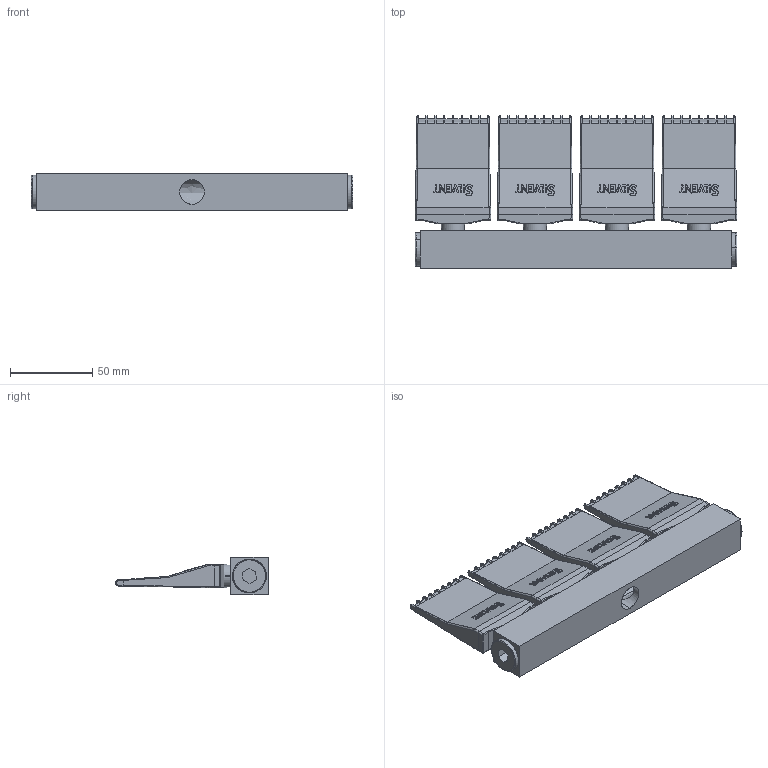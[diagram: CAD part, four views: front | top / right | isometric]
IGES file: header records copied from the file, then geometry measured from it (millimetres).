
Start section: SolidWorks IGES file using analytic representation for surfaces
Global section: file name: G:\Silvent\Ritningar\Övrigt\IGES\Silvent 394.IGS; native system: SolidWorks 2006 by SolidWorks Corporation; preprocessor: SolidWorks 2006 by SolidWorks Corporation; author: SilvRaTi; date: 061220.091118; units: millimetre
Bounding box: 196 x 93 x 23 mm (x, y, z)
Surface area: 63038.3 mm2 (no closed solid volume)
Topology: 0 solids, 0 shells, 1260 faces, 9994 edges, 9986 vertices
Faces by surface type: bspline 748, revolution 512
